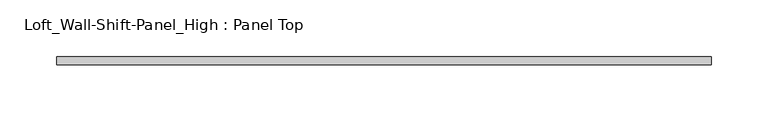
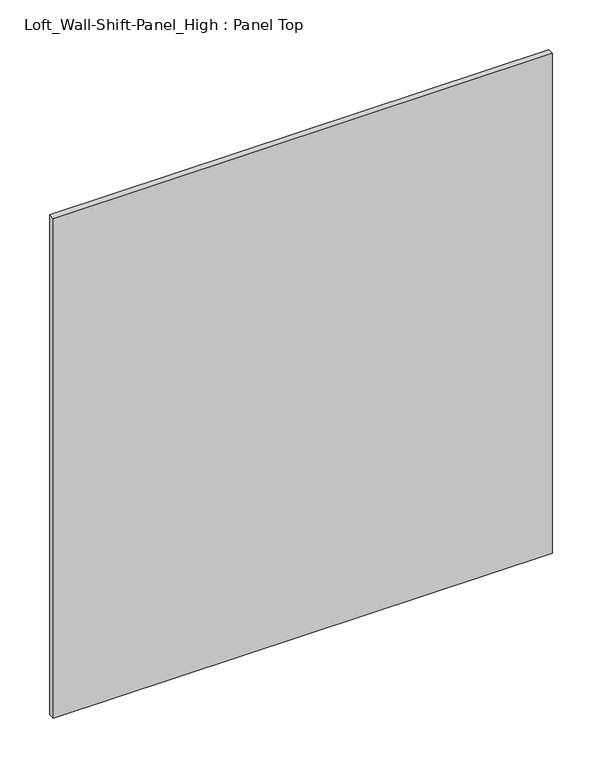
"""IFC4 building model written with IfcOpenShell, lengths in millimetres: furniture geometry, Loft_Wall-Shift-Panel_High : Panel Top."""

from ifc_helpers import new_model, si_unit, frame, origin, place, context, project, spatial, polyline, outline, extrude, source, transform, mapped, element, save


def loft_wall_shift_panel_high_panel_top_c6bffc80(model_context):
    return source(origin(), model_context, "Body", "SweptSolid", [
        extrude(outline(polyline([(288.925, -3.571875), (-288.925, -3.571875), (-288.925, 3.571875), (288.925, 3.571875), (288.925, -3.571875)])), frame((0.0, 0.0, 1323.18125), z_axis=(0.0, 0.0, 1.0), x_axis=(1.0, 0.0, 0.0)), (0.0, 0.0, 1.0), 611.98125),
    ])


if __name__ == "__main__":
    model = new_model("IFC4")
    model_context = context("Model", 3, world=origin())
    ifc_project = project(units=[si_unit("LENGTHUNIT", "METRE", prefix="MILLI")], contexts=[model_context])
    site = spatial("IfcSite", under=ifc_project)
    building = spatial("IfcBuilding", under=site)
    placement = place(None, origin())
    loft_wall_shift_panel_high_panel_top_shape = loft_wall_shift_panel_high_panel_top_c6bffc80(model_context)
    element("IfcFurniture", 1, ObjectType="Loft_Wall-Shift-Panel_High : Panel Top", at=placement, inside=building, context=model_context, shape_type="MappedRepresentation", body=[
        mapped(loft_wall_shift_panel_high_panel_top_shape, transform((0.0, 0.0, 0.0), x_axis=(1.0, 0.0, 0.0), y_axis=(0.0, 1.0, 0.0), z_axis=(0.0, 0.0, 1.0))),
    ])
    save(model, "model.ifc")
